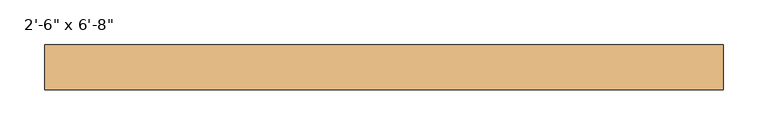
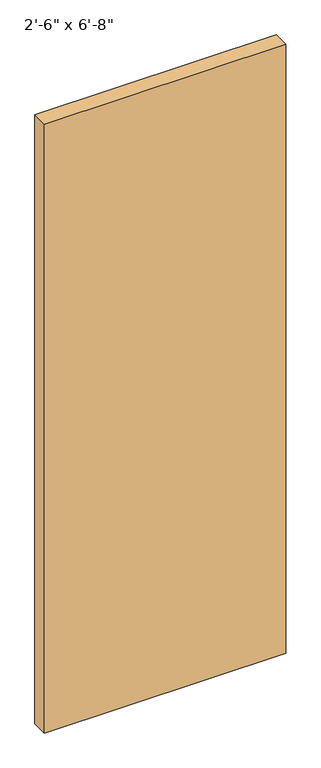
"""IFC4 building model written with IfcOpenShell, lengths in millimetres: door geometry."""

from ifc_helpers import new_model, si_unit, origin, origin_with_axes, place, context, project, spatial, polyline, outline, extrude, source, transform, mapped, element, save


def door_85798bfe(model_context):
    return source(origin(), model_context, "Body", "SweptSolid", [
        extrude(outline(polyline([(381.0, -101.4), (381.0, -152.4), (-381.0, -152.4), (-381.0, -101.4), (381.0, -101.4)])), origin_with_axes(), (0.0, 0.0, 1.0), 2032.0),
    ])


if __name__ == "__main__":
    model = new_model("IFC4")
    model_context = context("Model", 3, world=origin())
    ifc_project = project(units=[si_unit("LENGTHUNIT", "METRE", prefix="MILLI")], contexts=[model_context])
    site = spatial("IfcSite", under=ifc_project)
    building = spatial("IfcBuilding", under=site)
    placement = place(None, origin())
    door_shape = door_85798bfe(model_context)
    element("IfcDoor", 1, ObjectType="Planitar - Single Door_Flush Panel : 2'-6\" x 6'-8\"", at=placement, inside=building, context=model_context, shape_type="MappedRepresentation", body=[
        mapped(door_shape, transform((0.0, 0.0, 0.0), x_axis=(1.0, 0.0, 0.0), y_axis=(0.0, 1.0, 0.0), z_axis=(0.0, 0.0, 1.0))),
    ])
    save(model, "model.ifc")
